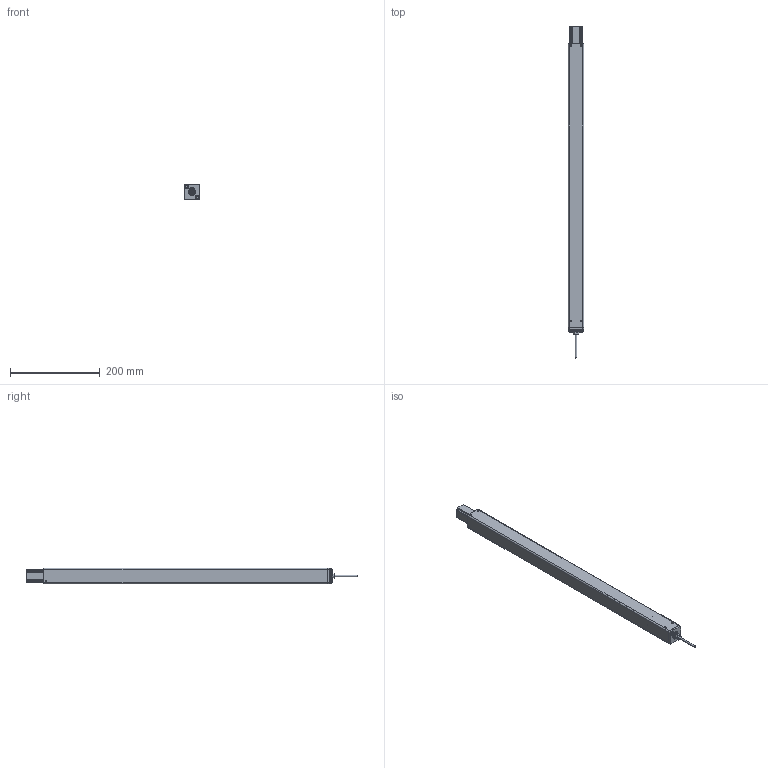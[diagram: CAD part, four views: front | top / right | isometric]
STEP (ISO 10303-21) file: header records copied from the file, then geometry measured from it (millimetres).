
FILE_DESCRIPTION(/* description */ ('Unknown'),/* implementation_level */ '2;1');
FILE_NAME(/* name */ '306.10024 Lineareinheit LH 1440 V eingefahren',/* time_stamp */ '2018-02-15T09:52:08+01:00',/* author */ ('Unknown'),/* organization */ ('Unknown'),/* preprocessor_version */ 'ST-DEVELOPER v16.7',/* originating_system */ 'DEX',/* authorisation */ $);
FILE_SCHEMA (('AUTOMOTIVE_DESIGN {1 0 10303 214 3 1 1}'));
Length unit declared in the file: millimetre
Products named in the file (14): 306.10024; 107.00264_oa_0; 115.00007_oa_1; 115.00112_oa_2; 125.00247; 142.00021; 125.00021; 127.00249; 127.00235_oa_3; Aussenrohr LH 1450; Innenrohr LH 1450; 113.00002_70mm; 142.00031; 142.00138
Assembly tree (14 placements, depth 4):
  306.10024
    107.00264_oa_0
      115.00007_oa_1
      115.00112_oa_2
        125.00247
      142.00021
      125.00021
    127.00249
    127.00235_oa_3
      Aussenrohr LH 1450
      Innenrohr LH 1450
    113.00002_70mm
    142.00031
    142.00138  x2
Bounding box: 35 x 740 x 35 mm (x, y, z)
Volume: 305630.1 mm3; surface area: 295250.4 mm2
Topology: 11 solids, 11 shells, 232 faces, 571 edges, 374 vertices
Faces by surface type: plane 115, cylinder 98, cone 11, torus 7, sphere 1
Full cylindrical faces by diameter (mm): 1.8 x2, 2.2 x1, 2.99 x1, 3 x2, 3.5 x1, 4 x1, 4.1 x1, 4.134 x6, 4.2 x1, 5 x3, 6 x2, 6.917 x2, 8 x3, 8.376 x1, 8.5 x2, 8.917 x2, 12.5 x1, 13 x3, 13.2 x1, 23.6 x1, 25 x1
Entity records: 7415 total; most frequent: DIRECTION 1130, CARTESIAN_POINT 1123, ORIENTED_EDGE 976, EDGE_CURVE 488, AXIS2_PLACEMENT_3D 428, VERTEX_POINT 349, FACE_BOUND 313, EDGE_LOOP 312
